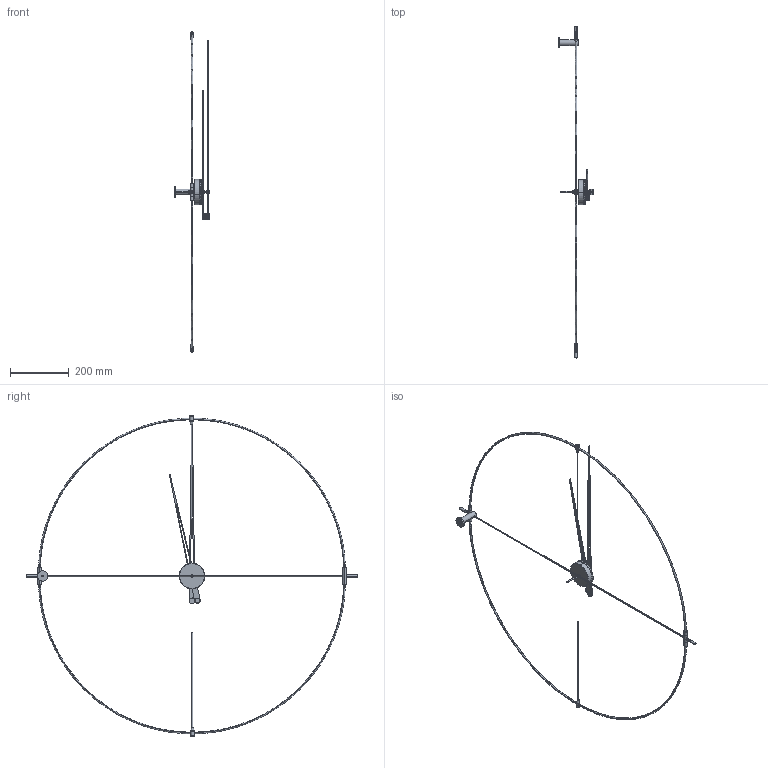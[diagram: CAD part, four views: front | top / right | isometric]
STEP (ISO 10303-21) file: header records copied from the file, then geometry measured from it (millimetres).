
FILE_DESCRIPTION (( 'STEP AP214' ), '1' );
FILE_NAME ('BILBAO_n.STEP', '2016-09-08T09:16:26', ( '' ), ( '' ), 'SwSTEP 2.0', 'SolidWorks 2013', '' );
FILE_SCHEMA (( 'AUTOMOTIVE_DESIGN' ));
Length unit declared in the file: millimetre
Products named in the file (31): aguja_horaria_calada_nogal; Esparrago; Contrapeso grande; Ecler; Tornillo; Anclaje_pared_Bilbao; Varilla_acero_Bilbao; Aro_105_Bilbao; Enlace_fibras_Bilbao; Pasante; Pieza_caja_superior; Embellecedor; Aguja_horaria_calada_nogal; Tuerca; Aguja_minutera_calada_nogal; Casquillo_señal_horaria_Bilbao; Apoyo_pared_Bilbao; aguja_minutera_calada_nogal; Pieza2; Cierre_contrapeso; Señal horaria_Bilbao; Soporte_Anclaje_pared_Bilbao; Contrapeso_pequeño; Casquillo_enlaze_fibras; BILBAO_n; Caja_acero_inox; Arandela_2; Casquillo_varilla_Bilbao; Pieza_caja_inferior; Tuerca 1.5; Mecanismo
Assembly tree (38 placements, depth 3):
  BILBAO_n
    Enlace_fibras_Bilbao  x2
    Casquillo_enlaze_fibras  x2
    Aro_105_Bilbao  x2
    Varilla_acero_Bilbao
    Casquillo_varilla_Bilbao  x2
    Señal horaria_Bilbao  x2
    Anclaje_pared_Bilbao
    Soporte_Anclaje_pared_Bilbao
    Caja_acero_inox
      Pieza_caja_inferior
      Pieza_caja_superior
      Mecanismo
      Pieza2
    Apoyo_pared_Bilbao
    Ecler
    Tornillo
    Casquillo_señal_horaria_Bilbao  x2
    Aguja_horaria_calada_nogal
      aguja_horaria_calada_nogal
      Contrapeso_pequeño
      Cierre_contrapeso
      Arandela_2
      Tuerca
      Pasante
    Aguja_minutera_calada_nogal
      aguja_minutera_calada_nogal
      Contrapeso grande  x2
      Arandela_2
      Embellecedor
      Esparrago
      Tuerca 1.5
Bounding box: 122.1 x 1132 x 1094 mm (x, y, z)
Volume: 246218.1 mm3; surface area: 197112.3 mm2
Topology: 35 solids, 35 shells, 411 faces, 848 edges, 532 vertices
Faces by surface type: cylinder 207, plane 134, torus 36, cone 30, bspline 4
Entity records: 11170 total; most frequent: CARTESIAN_POINT 2388, DIRECTION 1788, ORIENTED_EDGE 1388, AXIS2_PLACEMENT_3D 752, EDGE_CURVE 694, VERTEX_POINT 436, EDGE_LOOP 400, CIRCLE 377
